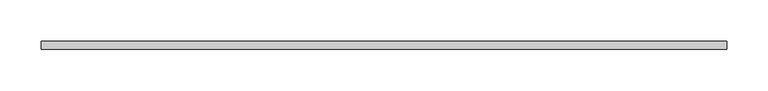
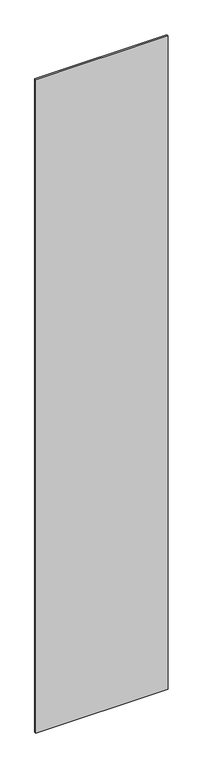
"""IFC4 building model written with IfcOpenShell, lengths in millimetres: plate geometry, システム パネル : 標準."""

from ifc_helpers import new_model, si_unit, origin, origin_with_axes, place, context, project, spatial, polyline, outline, extrude, source, transform, mapped, element, save


def plate_c840b4a1(model_context):
    return source(origin(), model_context, "Body", "SweptSolid", [
        extrude(outline(polyline([(417.5, -5.0), (-417.5, -5.0), (-417.5, 5.0), (417.5, 5.0), (417.5, -5.0)])), origin_with_axes(), (0.0, 0.0, 1.0), 4360.0),
    ])


if __name__ == "__main__":
    model = new_model("IFC4")
    model_context = context("Model", 3, world=origin())
    ifc_project = project(units=[si_unit("LENGTHUNIT", "METRE", prefix="MILLI")], contexts=[model_context])
    site = spatial("IfcSite", under=ifc_project)
    building = spatial("IfcBuilding", under=site)
    placement = place(None, origin())
    plate_shape = plate_c840b4a1(model_context)
    element("IfcPlate", 1, ObjectType="システム パネル : 標準", at=placement, inside=building, context=model_context, shape_type="MappedRepresentation", body=[
        mapped(plate_shape, transform((0.0, 0.0, 0.0), x_axis=(1.0, 0.0, 0.0), y_axis=(0.0, 1.0, 0.0), z_axis=(0.0, 0.0, 1.0))),
    ])
    save(model, "model.ifc")
